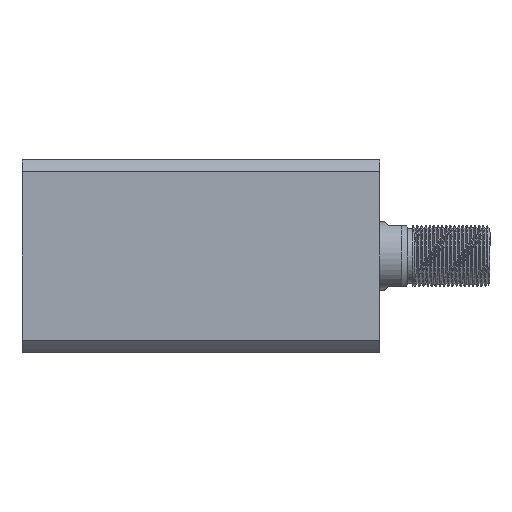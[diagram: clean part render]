
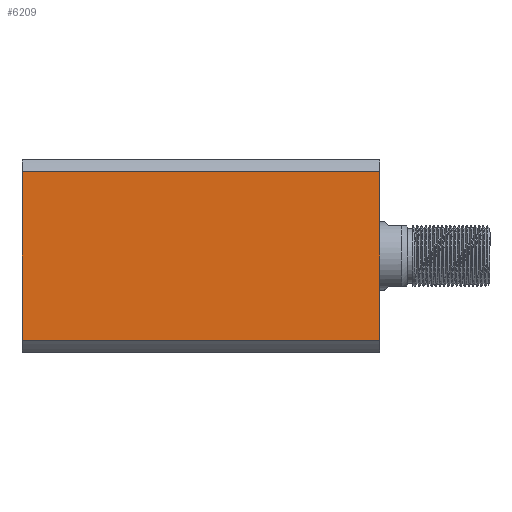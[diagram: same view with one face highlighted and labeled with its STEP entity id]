
A CAD part, left-side view. The second image highlights one B-rep face of the part: STEP entity #6209.
In plain terms, the highlighted planar face has unit normal (-1, 0, 0).
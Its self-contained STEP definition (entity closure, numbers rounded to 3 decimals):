
#122 = DIRECTION ( 'NONE',  ( 1., 0., 0. ) ) ;
#216 = CARTESIAN_POINT ( 'NONE',  ( -35., 30.615, 300. ) ) ;
#618 = CARTESIAN_POINT ( 'NONE',  ( -35., 30.615, 130. ) ) ;
#1747 = VECTOR ( 'NONE', #6036, 1000. ) ;
#3063 = LINE ( 'NONE', #8082, #1747 ) ;
#3127 = VERTEX_POINT ( 'NONE', #6687 ) ;
#3687 = EDGE_CURVE ( 'NONE', #12560, #12208, #6925, .T. ) ;
#3825 = VECTOR ( 'NONE', #10692, 1000. ) ;
#3937 = EDGE_CURVE ( 'NONE', #3127, #8749, #6272, .T. ) ;
#4236 = EDGE_LOOP ( 'NONE', ( #4906, #8564, #8877, #10028 ) ) ;
#4336 = CARTESIAN_POINT ( 'NONE',  ( -35., -30.615, 130. ) ) ;
#4906 = ORIENTED_EDGE ( 'NONE', *, *, #3687, .F. ) ;
#5977 = CARTESIAN_POINT ( 'NONE',  ( -35., 35., 130. ) ) ;
#6036 = DIRECTION ( 'NONE',  ( 0., -1., 0. ) ) ;
#6209 = ADVANCED_FACE ( 'NONE', ( #9019 ), #12642, .F. ) ;
#6272 = LINE ( 'NONE', #216, #3825 ) ;
#6687 = CARTESIAN_POINT ( 'NONE',  ( -35., 30.615, 0. ) ) ;
#6925 = LINE ( 'NONE', #12507, #12174 ) ;
#7333 = VECTOR ( 'NONE', #11165, 1000. ) ;
#7428 = DIRECTION ( 'NONE',  ( 0., 1., 0. ) ) ;
#8082 = CARTESIAN_POINT ( 'NONE',  ( -35., 35., 0. ) ) ;
#8301 = LINE ( 'NONE', #5977, #7333 ) ;
#8564 = ORIENTED_EDGE ( 'NONE', *, *, #8842, .F. ) ;
#8749 = VERTEX_POINT ( 'NONE', #618 ) ;
#8842 = EDGE_CURVE ( 'NONE', #8749, #12560, #8301, .T. ) ;
#8877 = ORIENTED_EDGE ( 'NONE', *, *, #3937, .F. ) ;
#9019 = FACE_OUTER_BOUND ( 'NONE', #4236, .T. ) ;
#9301 = DIRECTION ( 'NONE',  ( 0., 0., -1. ) ) ;
#9805 = EDGE_CURVE ( 'NONE', #3127, #12208, #3063, .T. ) ;
#10028 = ORIENTED_EDGE ( 'NONE', *, *, #9805, .T. ) ;
#10692 = DIRECTION ( 'NONE',  ( 0., 0., 1. ) ) ;
#11156 = CARTESIAN_POINT ( 'NONE',  ( -35., -30.615, 0. ) ) ;
#11165 = DIRECTION ( 'NONE',  ( 0., -1., 0. ) ) ;
#11276 = AXIS2_PLACEMENT_3D ( 'NONE', #11583, #122, #7428 ) ;
#11583 = CARTESIAN_POINT ( 'NONE',  ( -35., 35., 130. ) ) ;
#12174 = VECTOR ( 'NONE', #9301, 1000. ) ;
#12208 = VERTEX_POINT ( 'NONE', #11156 ) ;
#12507 = CARTESIAN_POINT ( 'NONE',  ( -35., -30.615, 300. ) ) ;
#12560 = VERTEX_POINT ( 'NONE', #4336 ) ;
#12642 = PLANE ( 'NONE',  #11276 ) ;
